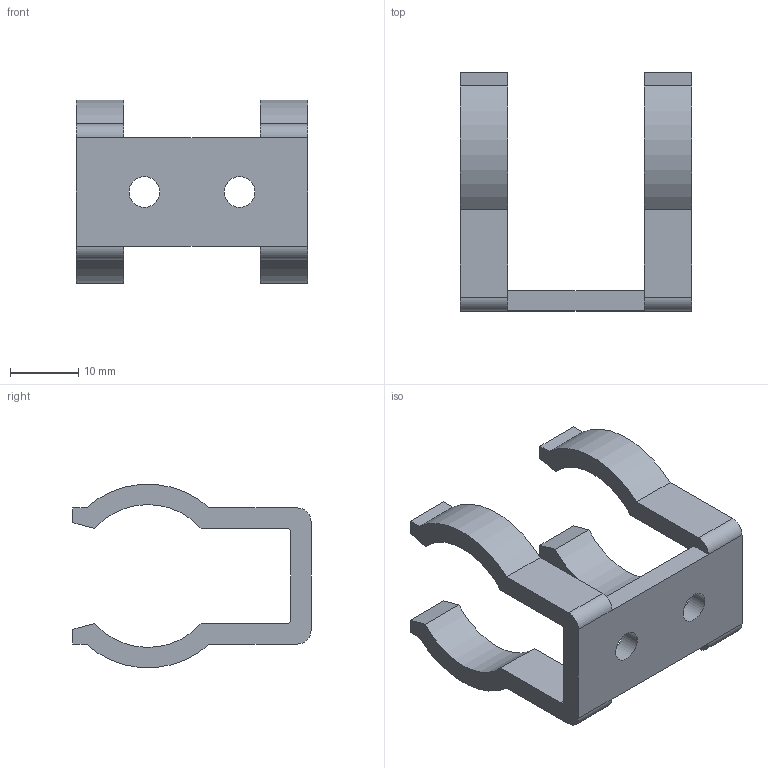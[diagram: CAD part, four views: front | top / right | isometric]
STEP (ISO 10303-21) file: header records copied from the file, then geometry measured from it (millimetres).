
FILE_DESCRIPTION(('STEP AP203'),'1');
FILE_NAME('BVFL-81H_3D.stp','2024-09-30T02:41:54',(' '),(' '),'Spatial InterOp 3D',' ',' ');
FILE_SCHEMA(('CONFIG_CONTROL_DESIGN'));
Length unit declared in the file: millimetre
Products named in the file (1): 1
Bounding box: 34 x 35 x 26.91 mm (x, y, z)
Volume: 4492.4 mm3; surface area: 4211.1 mm2
Topology: 1 solids, 1 shells, 48 faces, 134 edges, 88 vertices
Faces by surface type: plane 30, cylinder 18
Full cylindrical faces by diameter (mm): 4.5 x2
Entity records: 1584 total; most frequent: CARTESIAN_POINT 269, DIRECTION 266, ORIENTED_EDGE 264, EDGE_CURVE 132, LINE 96, VECTOR 96, VERTEX_POINT 88, AXIS2_PLACEMENT_3D 85
